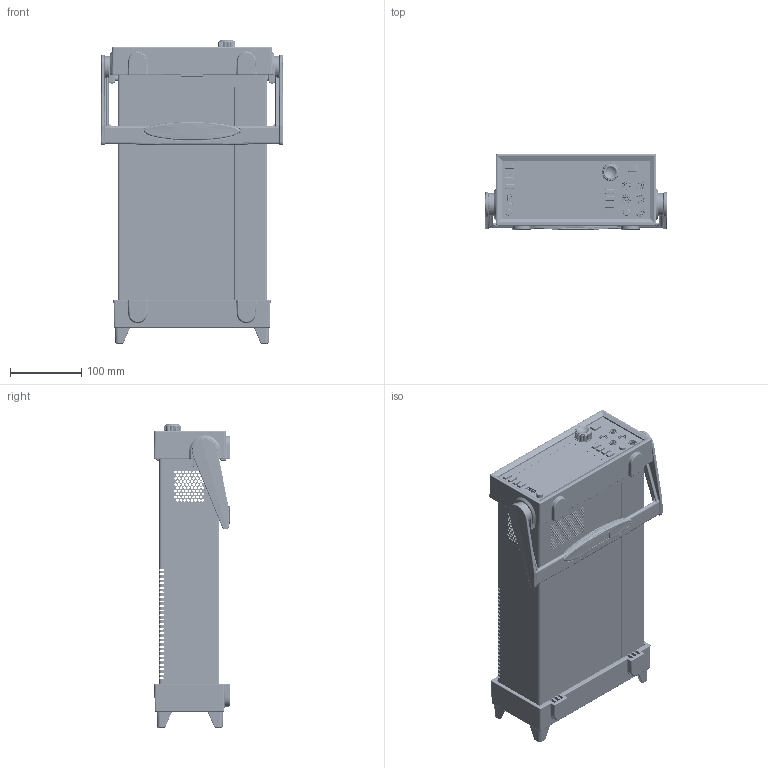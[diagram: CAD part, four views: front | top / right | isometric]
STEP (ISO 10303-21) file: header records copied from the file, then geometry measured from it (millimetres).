
FILE_DESCRIPTION((''),'2;1');
FILE_NAME('2450-SALES_ASM','2015-09-30T',('mboehnle'),('Keithley Instruments'),'CREO PARAMETRIC BY PTC INC, 2014440','CREO PARAMETRIC BY PTC INC, 2014440','');
FILE_SCHEMA(('CONFIG_CONTROL_DESIGN'));
Length unit declared in the file: inch
Products named in the file (63): CS-1234; 7002-323-2; 2450-130_ASM; 2450-303; PEM-CLS-632-2; PEM-AC-632-2; PEM-BS-632-2; 2450-303_ASM; LF-11-PURCHPART; GR-71-750; 2450-305; 2450-307; 2450-308; 2450-307_ASM; 2450-313; 2450-313-1; 2450-313-2; 2450-314; 2450-313_ASM; DD-77; DD-77-GLASS; DD-77_ASM; 2450-FP-INSERT_ASM; 2450-318; PEM-SOS-632-8; 2450-318_ASM; SW-545; SW-545-WASHER; SW-545-NUT; SW-545_ASM; 2450-306; 2450-322; 2450-306_ASM; 2450-326; 2450-326-OVERMOLD; 2450-326_ASM; 2450-FRONT-PANEL-ASSEMBLY_ASM; CS-507; CS-1150-1; CS-761-9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
Assembly tree (75 placements, depth 5):
  2450-SALES_ASM
    2450-130_ASM
      CS-1234
      7002-323-2
    2450-303_ASM
      2450-303
      PEM-CLS-632-2  x3
      PEM-AC-632-2
      PEM-BS-632-2  x2
    LF-11-PURCHPART
    GR-71-750
    2450-FRONT-PANEL-ASSEMBLY_ASM
      2450-305
      2450-FP-INSERT_ASM
        2450-307_ASM
          2450-307
          2450-308
        2450-313_ASM
          2450-313
          2450-313-1
          2450-313-2
          2450-314
        DD-77_ASM
          DD-77
          DD-77-GLASS
      2450-318_ASM
        2450-318
        PEM-SOS-632-8  x2
      SW-545_ASM
        SW-545
        SW-545-WASHER
        SW-545-NUT
      2450-306_ASM
        2450-306
        2450-322  x5
      2450-326_ASM
        2450-326
        2450-326-OVERMOLD
    2450-140_ASM
      CS-507
      CS-1150-1
      CS-761-9
      CS-1032
      CS-1644-2
      CS-1646-4
      CS-1640-14
      CS-1651-40
      CS-715-3
    2450-100_ASM
      CS-995-NUTLESS  x4
      CS-1614-3
    2450-315_ASM
      2450-315
      2450-316
    2450-330  x2
    2450-329  x2
    2450-331_ASM
      2450-331
      2450-331-GRIP
      2450-333
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Bounding box: 255.27 x 107.15 x 425.36 mm (x, y, z)
Volume: 1066230.6 mm3; surface area: 922666 mm2
Topology: 60 solids, 92 shells, 15290 faces, 40975 edges, 26262 vertices
Faces by surface type: plane 8998, cylinder 4198, bspline 730, cone 709, torus 326, sphere 165, extrusion 164
Entity records: 471971 total; most frequent: CARTESIAN_POINT 126038, ORIENTED_EDGE 73184, DIRECTION 68728, EDGE_CURVE 36720, VECTOR 25906, LINE 25742, VERTEX_POINT 23555, AXIS2_PLACEMENT_3D 21411
